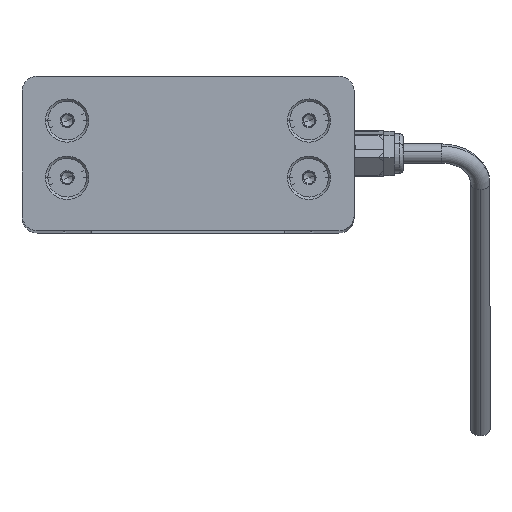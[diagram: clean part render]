
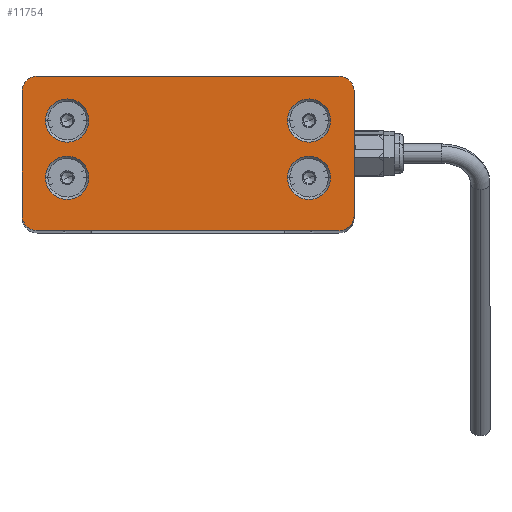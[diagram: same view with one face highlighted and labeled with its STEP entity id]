
A CAD part, top view. The second image highlights one B-rep face of the part: STEP entity #11754.
In plain terms, the highlighted planar face has unit normal (0, 0, 1) as drawn and (0, 0, -1) by its records, which use the part's own axes.
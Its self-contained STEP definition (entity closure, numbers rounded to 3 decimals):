
#116 = CARTESIAN_POINT ( 'NONE',  ( -39., 20., 0. ) ) ;
#316 = VERTEX_POINT ( 'NONE', #16629 ) ;
#415 = EDGE_CURVE ( 'NONE', #15207, #16965, #8713, .T. ) ;
#497 = DIRECTION ( 'NONE',  ( 0., 0., 1. ) ) ;
#505 = DIRECTION ( 'NONE',  ( -1., 0., 0. ) ) ;
#703 = CARTESIAN_POINT ( 'NONE',  ( 25.7, -6.3, 0. ) ) ;
#729 = ORIENTED_EDGE ( 'NONE', *, *, #2925, .F. ) ;
#818 = ORIENTED_EDGE ( 'NONE', *, *, #16915, .F. ) ;
#830 = CARTESIAN_POINT ( 'NONE',  ( -25.7, -6.3, 0. ) ) ;
#831 = CARTESIAN_POINT ( 'NONE',  ( 25.7, 8.5, 0. ) ) ;
#912 = DIRECTION ( 'NONE',  ( 0., 0., -1. ) ) ;
#1076 = VERTEX_POINT ( 'NONE', #9247 ) ;
#1203 = ORIENTED_EDGE ( 'NONE', *, *, #13234, .F. ) ;
#1309 = FACE_BOUND ( 'NONE', #1370, .T. ) ;
#1370 = EDGE_LOOP ( 'NONE', ( #12844, #14445 ) ) ;
#1394 = FACE_OUTER_BOUND ( 'NONE', #3161, .T. ) ;
#1429 = CIRCLE ( 'NONE', #6594, 5.6 ) ;
#1498 = ORIENTED_EDGE ( 'NONE', *, *, #16646, .F. ) ;
#1566 = DIRECTION ( 'NONE',  ( -1., 0., 0. ) ) ;
#1701 = VERTEX_POINT ( 'NONE', #7850 ) ;
#1853 = CARTESIAN_POINT ( 'NONE',  ( 39., 16., 0. ) ) ;
#1982 = LINE ( 'NONE', #3607, #3459 ) ;
#2147 = CARTESIAN_POINT ( 'NONE',  ( 31.3, -6.3, 0. ) ) ;
#2589 = EDGE_CURVE ( 'NONE', #12950, #13520, #3116, .T. ) ;
#2643 = CIRCLE ( 'NONE', #9209, 4. ) ;
#2813 = FACE_BOUND ( 'NONE', #13031, .T. ) ;
#2925 = EDGE_CURVE ( 'NONE', #5064, #13322, #12798, .T. ) ;
#3116 = CIRCLE ( 'NONE', #15087, 5.6 ) ;
#3161 = EDGE_LOOP ( 'NONE', ( #1498, #11817, #3380, #12445, #4217, #4867, #729, #818 ) ) ;
#3222 = DIRECTION ( 'NONE',  ( 0., 0., -1. ) ) ;
#3305 = DIRECTION ( 'NONE',  ( -1., 0., 0. ) ) ;
#3380 = ORIENTED_EDGE ( 'NONE', *, *, #4188, .F. ) ;
#3397 = DIRECTION ( 'NONE',  ( -1., 0., 0. ) ) ;
#3459 = VECTOR ( 'NONE', #6206, 1000. ) ;
#3607 = CARTESIAN_POINT ( 'NONE',  ( -39., -20., 0. ) ) ;
#3698 = CARTESIAN_POINT ( 'NONE',  ( -43., 16., 0. ) ) ;
#3806 = CARTESIAN_POINT ( 'NONE',  ( -31.3, -6.3, 0. ) ) ;
#3911 = VERTEX_POINT ( 'NONE', #15527 ) ;
#3918 = CARTESIAN_POINT ( 'NONE',  ( 43., -16., 0. ) ) ;
#4099 = DIRECTION ( 'NONE',  ( 0., 1., 0. ) ) ;
#4188 = EDGE_CURVE ( 'NONE', #14795, #316, #11062, .T. ) ;
#4206 = EDGE_CURVE ( 'NONE', #13322, #1701, #7468, .T. ) ;
#4217 = ORIENTED_EDGE ( 'NONE', *, *, #4962, .F. ) ;
#4256 = DIRECTION ( 'NONE',  ( 0., 0., -1. ) ) ;
#4425 = DIRECTION ( 'NONE',  ( 0., 0., 1. ) ) ;
#4789 = AXIS2_PLACEMENT_3D ( 'NONE', #6676, #4425, #1566 ) ;
#4867 = ORIENTED_EDGE ( 'NONE', *, *, #4206, .F. ) ;
#4904 = AXIS2_PLACEMENT_3D ( 'NONE', #3806, #13259, #5394 ) ;
#4962 = EDGE_CURVE ( 'NONE', #1701, #11520, #7650, .T. ) ;
#5064 = VERTEX_POINT ( 'NONE', #10244 ) ;
#5335 = FACE_BOUND ( 'NONE', #11840, .T. ) ;
#5394 = DIRECTION ( 'NONE',  ( -1., 0., 0. ) ) ;
#5649 = EDGE_LOOP ( 'NONE', ( #7068, #13883 ) ) ;
#6206 = DIRECTION ( 'NONE',  ( 1., 0., 0. ) ) ;
#6325 = CARTESIAN_POINT ( 'NONE',  ( 36.9, -6.3, 0. ) ) ;
#6594 = AXIS2_PLACEMENT_3D ( 'NONE', #12561, #13066, #11238 ) ;
#6676 = CARTESIAN_POINT ( 'NONE',  ( -39., -16., 0. ) ) ;
#6760 = FACE_BOUND ( 'NONE', #5649, .T. ) ;
#6787 = EDGE_CURVE ( 'NONE', #3911, #13795, #13596, .T. ) ;
#6829 = AXIS2_PLACEMENT_3D ( 'NONE', #15726, #17147, #9031 ) ;
#6961 = CARTESIAN_POINT ( 'NONE',  ( -39., 16., 0. ) ) ;
#7011 = ORIENTED_EDGE ( 'NONE', *, *, #2589, .F. ) ;
#7068 = ORIENTED_EDGE ( 'NONE', *, *, #16845, .F. ) ;
#7111 = EDGE_CURVE ( 'NONE', #316, #15802, #10980, .T. ) ;
#7147 = DIRECTION ( 'NONE',  ( 0., 0., -1. ) ) ;
#7184 = VERTEX_POINT ( 'NONE', #14338 ) ;
#7212 = AXIS2_PLACEMENT_3D ( 'NONE', #8163, #12101, #17532 ) ;
#7292 = CARTESIAN_POINT ( 'NONE',  ( -43., -16., 0. ) ) ;
#7312 = CARTESIAN_POINT ( 'NONE',  ( 31.3, 8.5, 0. ) ) ;
#7322 = DIRECTION ( 'NONE',  ( -1., 0., 0. ) ) ;
#7455 = AXIS2_PLACEMENT_3D ( 'NONE', #12382, #4256, #15156 ) ;
#7468 = LINE ( 'NONE', #7292, #15618 ) ;
#7598 = ORIENTED_EDGE ( 'NONE', *, *, #8002, .F. ) ;
#7650 = CIRCLE ( 'NONE', #4789, 4. ) ;
#7809 = EDGE_CURVE ( 'NONE', #7184, #1076, #11677, .T. ) ;
#7850 = CARTESIAN_POINT ( 'NONE',  ( -43., -16., 0. ) ) ;
#8002 = EDGE_CURVE ( 'NONE', #1076, #7184, #13948, .T. ) ;
#8163 = CARTESIAN_POINT ( 'NONE',  ( 31.3, 8.5, 0. ) ) ;
#8244 = AXIS2_PLACEMENT_3D ( 'NONE', #6961, #9819, #13559 ) ;
#8520 = LINE ( 'NONE', #116, #16072 ) ;
#8640 = CARTESIAN_POINT ( 'NONE',  ( 39., -16., 0. ) ) ;
#8713 = CIRCLE ( 'NONE', #15549, 5.6 ) ;
#9031 = DIRECTION ( 'NONE',  ( -1., 0., 0. ) ) ;
#9152 = CARTESIAN_POINT ( 'NONE',  ( 39., -20., 0. ) ) ;
#9209 = AXIS2_PLACEMENT_3D ( 'NONE', #1853, #10077, #505 ) ;
#9247 = CARTESIAN_POINT ( 'NONE',  ( -36.9, 8.5, 0. ) ) ;
#9819 = DIRECTION ( 'NONE',  ( 0., 0., 1. ) ) ;
#9917 = CARTESIAN_POINT ( 'NONE',  ( -31.3, 8.5, 0. ) ) ;
#10077 = DIRECTION ( 'NONE',  ( 0., 0., 1. ) ) ;
#10244 = CARTESIAN_POINT ( 'NONE',  ( -39., 20., 0. ) ) ;
#10507 = AXIS2_PLACEMENT_3D ( 'NONE', #8640, #497, #11319 ) ;
#10848 = CARTESIAN_POINT ( 'NONE',  ( 43., 16., 0. ) ) ;
#10980 = LINE ( 'NONE', #3918, #16583 ) ;
#11062 = CIRCLE ( 'NONE', #10507, 4. ) ;
#11188 = EDGE_CURVE ( 'NONE', #11520, #14795, #1982, .T. ) ;
#11238 = DIRECTION ( 'NONE',  ( -1., 0., 0. ) ) ;
#11319 = DIRECTION ( 'NONE',  ( 1., 0., 0. ) ) ;
#11520 = VERTEX_POINT ( 'NONE', #12142 ) ;
#11677 = CIRCLE ( 'NONE', #17632, 5.6 ) ;
#11754 = ADVANCED_FACE ( 'NONE', ( #6760, #2813, #5335, #1309, #1394 ), #16492, .T. ) ;
#11817 = ORIENTED_EDGE ( 'NONE', *, *, #7111, .F. ) ;
#11840 = EDGE_LOOP ( 'NONE', ( #7598, #17220 ) ) ;
#11957 = CARTESIAN_POINT ( 'NONE',  ( 39., 20., 0. ) ) ;
#12101 = DIRECTION ( 'NONE',  ( 0., 0., -1. ) ) ;
#12142 = CARTESIAN_POINT ( 'NONE',  ( -39., -20., 0. ) ) ;
#12302 = CIRCLE ( 'NONE', #4904, 5.6 ) ;
#12382 = CARTESIAN_POINT ( 'NONE',  ( 39., 16., 0. ) ) ;
#12445 = ORIENTED_EDGE ( 'NONE', *, *, #11188, .F. ) ;
#12561 = CARTESIAN_POINT ( 'NONE',  ( 31.3, -6.3, 0. ) ) ;
#12628 = CIRCLE ( 'NONE', #7212, 5.6 ) ;
#12798 = CIRCLE ( 'NONE', #8244, 4. ) ;
#12844 = ORIENTED_EDGE ( 'NONE', *, *, #415, .F. ) ;
#12950 = VERTEX_POINT ( 'NONE', #703 ) ;
#12989 = VERTEX_POINT ( 'NONE', #11957 ) ;
#13009 = DIRECTION ( 'NONE',  ( 0., -1., 0. ) ) ;
#13031 = EDGE_LOOP ( 'NONE', ( #7011, #1203 ) ) ;
#13051 = CARTESIAN_POINT ( 'NONE',  ( -31.3, -6.3, 0. ) ) ;
#13066 = DIRECTION ( 'NONE',  ( 0., 0., -1. ) ) ;
#13234 = EDGE_CURVE ( 'NONE', #13520, #12950, #1429, .T. ) ;
#13259 = DIRECTION ( 'NONE',  ( 0., 0., -1. ) ) ;
#13322 = VERTEX_POINT ( 'NONE', #3698 ) ;
#13520 = VERTEX_POINT ( 'NONE', #6325 ) ;
#13559 = DIRECTION ( 'NONE',  ( -1., 0., 0. ) ) ;
#13596 = CIRCLE ( 'NONE', #14182, 5.6 ) ;
#13795 = VERTEX_POINT ( 'NONE', #831 ) ;
#13883 = ORIENTED_EDGE ( 'NONE', *, *, #6787, .F. ) ;
#13948 = CIRCLE ( 'NONE', #6829, 5.6 ) ;
#14182 = AXIS2_PLACEMENT_3D ( 'NONE', #7312, #3222, #3397 ) ;
#14338 = CARTESIAN_POINT ( 'NONE',  ( -25.7, 8.5, 0. ) ) ;
#14445 = ORIENTED_EDGE ( 'NONE', *, *, #15681, .F. ) ;
#14795 = VERTEX_POINT ( 'NONE', #9152 ) ;
#15087 = AXIS2_PLACEMENT_3D ( 'NONE', #2147, #15826, #7322 ) ;
#15156 = DIRECTION ( 'NONE',  ( -1., 0., 0. ) ) ;
#15207 = VERTEX_POINT ( 'NONE', #16853 ) ;
#15220 = DIRECTION ( 'NONE',  ( -1., 0., 0. ) ) ;
#15527 = CARTESIAN_POINT ( 'NONE',  ( 36.9, 8.5, 0. ) ) ;
#15549 = AXIS2_PLACEMENT_3D ( 'NONE', #13051, #912, #17245 ) ;
#15618 = VECTOR ( 'NONE', #13009, 1000. ) ;
#15681 = EDGE_CURVE ( 'NONE', #16965, #15207, #12302, .T. ) ;
#15726 = CARTESIAN_POINT ( 'NONE',  ( -31.3, 8.5, 0. ) ) ;
#15802 = VERTEX_POINT ( 'NONE', #10848 ) ;
#15826 = DIRECTION ( 'NONE',  ( 0., 0., -1. ) ) ;
#16072 = VECTOR ( 'NONE', #15220, 1000. ) ;
#16492 = PLANE ( 'NONE',  #7455 ) ;
#16583 = VECTOR ( 'NONE', #4099, 1000. ) ;
#16629 = CARTESIAN_POINT ( 'NONE',  ( 43., -16., 0. ) ) ;
#16646 = EDGE_CURVE ( 'NONE', #15802, #12989, #2643, .T. ) ;
#16845 = EDGE_CURVE ( 'NONE', #13795, #3911, #12628, .T. ) ;
#16853 = CARTESIAN_POINT ( 'NONE',  ( -36.9, -6.3, 0. ) ) ;
#16915 = EDGE_CURVE ( 'NONE', #12989, #5064, #8520, .T. ) ;
#16965 = VERTEX_POINT ( 'NONE', #830 ) ;
#17147 = DIRECTION ( 'NONE',  ( 0., 0., -1. ) ) ;
#17220 = ORIENTED_EDGE ( 'NONE', *, *, #7809, .F. ) ;
#17245 = DIRECTION ( 'NONE',  ( -1., 0., 0. ) ) ;
#17532 = DIRECTION ( 'NONE',  ( -1., 0., 0. ) ) ;
#17632 = AXIS2_PLACEMENT_3D ( 'NONE', #9917, #7147, #3305 ) ;
